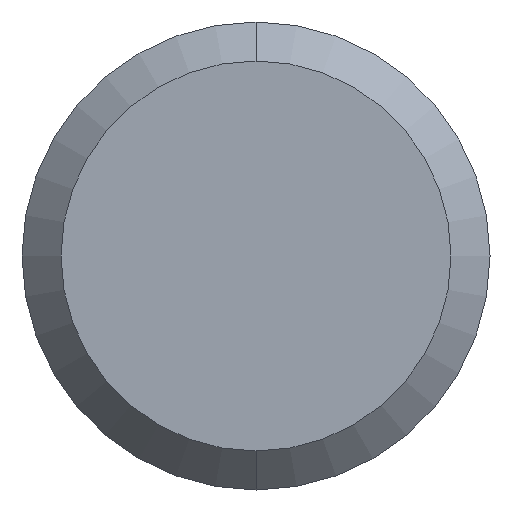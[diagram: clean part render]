
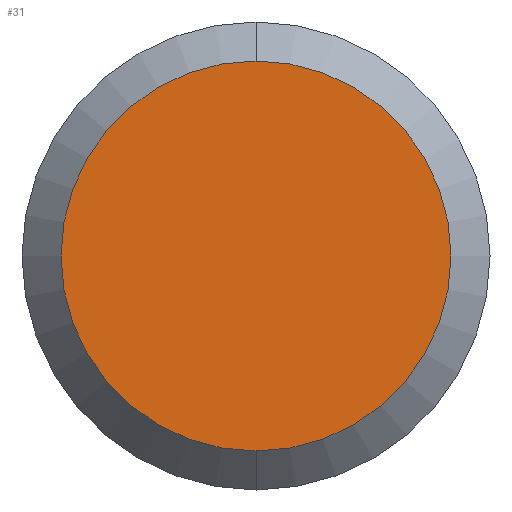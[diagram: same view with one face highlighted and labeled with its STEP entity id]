
A CAD part, front view. The second image highlights one B-rep face of the part: STEP entity #31.
In plain terms, the highlighted planar face has unit normal (0, -1, 0).
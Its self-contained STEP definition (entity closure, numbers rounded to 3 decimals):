
#4 = CARTESIAN_POINT ( 'NONE',  ( 0., 0., 5. ) ) ;
#13 = EDGE_CURVE ( 'NONE', #75, #193, #154, .T. ) ;
#25 = ORIENTED_EDGE ( 'NONE', *, *, #13, .T. ) ;
#31 = ADVANCED_FACE ( 'NONE', ( #61 ), #66, .F. ) ;
#35 = DIRECTION ( 'NONE',  ( 0., 0., 1. ) ) ;
#46 = CARTESIAN_POINT ( 'NONE',  ( 0., 0., 0. ) ) ;
#48 = AXIS2_PLACEMENT_3D ( 'NONE', #71, #204, #35 ) ;
#55 = AXIS2_PLACEMENT_3D ( 'NONE', #180, #182, #136 ) ;
#61 = FACE_OUTER_BOUND ( 'NONE', #129, .T. ) ;
#66 = PLANE ( 'NONE',  #55 ) ;
#70 = AXIS2_PLACEMENT_3D ( 'NONE', #46, #217, #221 ) ;
#71 = CARTESIAN_POINT ( 'NONE',  ( 0., 0., 0. ) ) ;
#75 = VERTEX_POINT ( 'NONE', #148 ) ;
#128 = EDGE_CURVE ( 'NONE', #193, #75, #190, .T. ) ;
#129 = EDGE_LOOP ( 'NONE', ( #219, #25 ) ) ;
#136 = DIRECTION ( 'NONE',  ( 1., 0., 0. ) ) ;
#148 = CARTESIAN_POINT ( 'NONE',  ( 0., 0., -5. ) ) ;
#154 = CIRCLE ( 'NONE', #70, 5. ) ;
#180 = CARTESIAN_POINT ( 'NONE',  ( 0., 0., 0. ) ) ;
#182 = DIRECTION ( 'NONE',  ( 0., 1., 0. ) ) ;
#190 = CIRCLE ( 'NONE', #48, 5. ) ;
#193 = VERTEX_POINT ( 'NONE', #4 ) ;
#204 = DIRECTION ( 'NONE',  ( 0., -1., 0. ) ) ;
#217 = DIRECTION ( 'NONE',  ( 0., -1., 0. ) ) ;
#219 = ORIENTED_EDGE ( 'NONE', *, *, #128, .T. ) ;
#221 = DIRECTION ( 'NONE',  ( 0., 0., 1. ) ) ;
